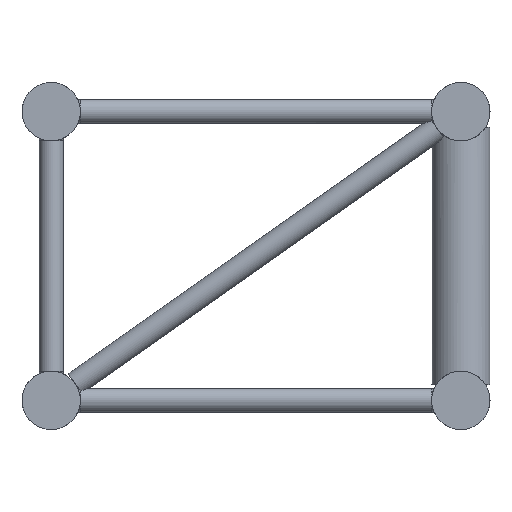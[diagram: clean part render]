
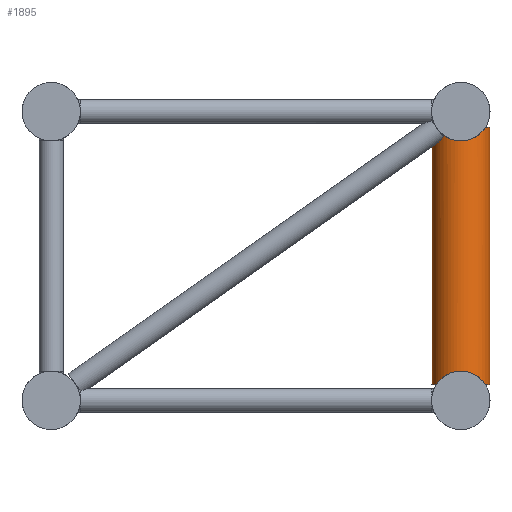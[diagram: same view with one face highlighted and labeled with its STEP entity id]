
A CAD part, left-side view. The second image highlights one B-rep face of the part: STEP entity #1895.
In plain terms, the highlighted cylindrical face has radius 24.15 mm (diameter 48.3 mm), a full revolution.
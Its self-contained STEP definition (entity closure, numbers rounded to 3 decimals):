
#189=FACE_BOUND('',#480,.T.);
#335=FACE_OUTER_BOUND('',#479,.T.);
#479=EDGE_LOOP('',(#1449,#1450,#1451,#1452,#1453,#1454));
#480=EDGE_LOOP('',(#1455,#1456,#1457,#1458));
#634=CIRCLE('',#2006,24.15);
#673=CIRCLE('',#2115,24.15);
#674=CIRCLE('',#2117,24.15);
#675=CIRCLE('',#2119,24.15);
#720=ELLIPSE('',#1983,41.912,24.15);
#728=ELLIPSE('',#2012,34.153,24.15);
#729=ELLIPSE('',#2013,34.153,24.15);
#746=ELLIPSE('',#2121,34.153,24.15);
#747=ELLIPSE('',#2122,34.153,24.15);
#754=B_SPLINE_CURVE_WITH_KNOTS('',3,(#2891,#2892,#2893,#2894,#2895,#2896,
#2897,#2898,#2899,#2900,#2901,#2902,#2903,#2904,#2905,#2906,#2907,#2908,
#2909,#2910,#2911,#2912),.UNSPECIFIED.,.F.,.F.,(4,2,2,2,2,2,2,2,2,2,4),
(1.619,2.098,2.448,2.797,2.963,
3.129,3.294,3.46,3.868,4.276,
4.635),.UNSPECIFIED.);
#826=VERTEX_POINT('',#2868);
#827=VERTEX_POINT('',#2869);
#835=VERTEX_POINT('',#2889);
#845=VERTEX_POINT('',#2949);
#852=VERTEX_POINT('',#2967);
#853=VERTEX_POINT('',#2969);
#898=VERTEX_POINT('',#3537);
#899=VERTEX_POINT('',#3538);
#900=VERTEX_POINT('',#3542);
#901=VERTEX_POINT('',#3543);
#1002=EDGE_CURVE('',#826,#827,#720,.T.);
#1011=EDGE_CURVE('',#827,#835,#754,.T.);
#1029=EDGE_CURVE('',#845,#835,#634,.T.);
#1038=EDGE_CURVE('',#826,#852,#728,.T.);
#1040=EDGE_CURVE('',#853,#845,#729,.T.);
#1114=EDGE_CURVE('',#898,#899,#673,.T.);
#1116=EDGE_CURVE('',#900,#901,#674,.T.);
#1117=EDGE_CURVE('',#852,#853,#675,.T.);
#1118=EDGE_CURVE('',#901,#898,#746,.T.);
#1119=EDGE_CURVE('',#899,#900,#747,.T.);
#1449=ORIENTED_EDGE('',*,*,#1011,.T.);
#1450=ORIENTED_EDGE('',*,*,#1029,.F.);
#1451=ORIENTED_EDGE('',*,*,#1040,.F.);
#1452=ORIENTED_EDGE('',*,*,#1117,.F.);
#1453=ORIENTED_EDGE('',*,*,#1038,.F.);
#1454=ORIENTED_EDGE('',*,*,#1002,.T.);
#1455=ORIENTED_EDGE('',*,*,#1118,.F.);
#1456=ORIENTED_EDGE('',*,*,#1116,.F.);
#1457=ORIENTED_EDGE('',*,*,#1119,.F.);
#1458=ORIENTED_EDGE('',*,*,#1114,.F.);
#1684=CYLINDRICAL_SURFACE('',#2120,24.15);
#1895=ADVANCED_FACE('',(#335,#189),#1684,.T.);
#1983=AXIS2_PLACEMENT_3D('',#2870,#2286,#2287);
#2006=AXIS2_PLACEMENT_3D('',#2951,#2340,#2341);
#2012=AXIS2_PLACEMENT_3D('',#2968,#2356,#2357);
#2013=AXIS2_PLACEMENT_3D('',#2971,#2359,#2360);
#2115=AXIS2_PLACEMENT_3D('',#3540,#2572,#2573);
#2117=AXIS2_PLACEMENT_3D('',#3545,#2577,#2578);
#2119=AXIS2_PLACEMENT_3D('',#3547,#2581,#2582);
#2120=AXIS2_PLACEMENT_3D('',#3548,#2583,#2584);
#2121=AXIS2_PLACEMENT_3D('',#3549,#2585,#2586);
#2122=AXIS2_PLACEMENT_3D('',#3550,#2587,#2588);
#2286=DIRECTION('center_axis',(0.,-0.817,
0.576));
#2287=DIRECTION('ref_axis',(0.,-0.576,-0.817));
#2340=DIRECTION('center_axis',(0.,0.,1.));
#2341=DIRECTION('ref_axis',(-1.,0.,0.));
#2356=DIRECTION('center_axis',(-0.707,0.,0.707));
#2357=DIRECTION('ref_axis',(-0.707,0.,-0.707));
#2359=DIRECTION('center_axis',(0.707,0.,0.707));
#2360=DIRECTION('ref_axis',(-0.707,0.,0.707));
#2572=DIRECTION('center_axis',(0.,0.,-1.));
#2573=DIRECTION('ref_axis',(-1.,0.,0.));
#2577=DIRECTION('center_axis',(0.,0.,-1.));
#2578=DIRECTION('ref_axis',(-1.,0.,0.));
#2581=DIRECTION('center_axis',(0.,0.,1.));
#2582=DIRECTION('ref_axis',(-1.,0.,0.));
#2583=DIRECTION('center_axis',(0.,0.,1.));
#2584=DIRECTION('ref_axis',(-1.,0.,0.));
#2585=DIRECTION('center_axis',(0.707,0.,-0.707));
#2586=DIRECTION('ref_axis',(-0.707,0.,-0.707));
#2587=DIRECTION('center_axis',(-0.707,0.,-0.707));
#2588=DIRECTION('ref_axis',(-0.707,0.,0.707));
#2868=CARTESIAN_POINT('',(57.303,17.304,-16.847));
#2869=CARTESIAN_POINT('',(54.872,14.545,-20.759));
#2870=CARTESIAN_POINT('Origin',(74.15,0.,-41.39));
#2889=CARTESIAN_POINT('',(69.566,23.711,-13.15));
#2891=CARTESIAN_POINT('Ctrl Pts',(54.872,14.545,-20.759));
#2892=CARTESIAN_POINT('Ctrl Pts',(55.539,15.43,-21.871));
#2893=CARTESIAN_POINT('Ctrl Pts',(56.282,16.29,-22.894));
#2894=CARTESIAN_POINT('Ctrl Pts',(57.74,17.739,-24.451));
#2895=CARTESIAN_POINT('Ctrl Pts',(58.405,18.336,-25.041));
#2896=CARTESIAN_POINT('Ctrl Pts',(59.897,19.519,-26.03));
#2897=CARTESIAN_POINT('Ctrl Pts',(60.719,20.104,-26.438));
#2898=CARTESIAN_POINT('Ctrl Pts',(62.167,20.975,-26.746));
#2899=CARTESIAN_POINT('Ctrl Pts',(62.666,21.252,-26.794));
#2900=CARTESIAN_POINT('Ctrl Pts',(63.682,21.771,-26.743));
#2901=CARTESIAN_POINT('Ctrl Pts',(64.199,22.011,-26.644));
#2902=CARTESIAN_POINT('Ctrl Pts',(65.2,22.437,-26.293));
#2903=CARTESIAN_POINT('Ctrl Pts',(65.685,22.623,-26.039));
#2904=CARTESIAN_POINT('Ctrl Pts',(66.582,22.938,-25.41));
#2905=CARTESIAN_POINT('Ctrl Pts',(66.993,23.068,-25.034));
#2906=CARTESIAN_POINT('Ctrl Pts',(68.242,23.435,-23.633));
#2907=CARTESIAN_POINT('Ctrl Pts',(68.924,23.582,-22.355));
#2908=CARTESIAN_POINT('Ctrl Pts',(69.805,23.76,-19.606));
#2909=CARTESIAN_POINT('Ctrl Pts',(70.,23.791,-18.133));
#2910=CARTESIAN_POINT('Ctrl Pts',(70.,23.791,-15.575));
#2911=CARTESIAN_POINT('Ctrl Pts',(69.855,23.767,-14.351));
#2912=CARTESIAN_POINT('Ctrl Pts',(69.566,23.711,-13.15));
#2949=CARTESIAN_POINT('',(87.3,20.256,-13.15));
#2951=CARTESIAN_POINT('Origin',(74.15,0.,-13.15));
#2967=CARTESIAN_POINT('',(61.,-20.256,-13.15));
#2968=CARTESIAN_POINT('Origin',(74.15,0.,0.));
#2969=CARTESIAN_POINT('',(87.3,-20.256,-13.15));
#2971=CARTESIAN_POINT('Origin',(74.15,0.,0.));
#3537=CARTESIAN_POINT('',(87.3,-20.256,-225.85));
#3538=CARTESIAN_POINT('',(61.,-20.256,-225.85));
#3540=CARTESIAN_POINT('Origin',(74.15,0.,-225.85));
#3542=CARTESIAN_POINT('',(61.,20.256,-225.85));
#3543=CARTESIAN_POINT('',(87.3,20.256,-225.85));
#3545=CARTESIAN_POINT('Origin',(74.15,0.,-225.85));
#3547=CARTESIAN_POINT('Origin',(74.15,0.,-13.15));
#3548=CARTESIAN_POINT('Origin',(74.15,0.,-225.85));
#3549=CARTESIAN_POINT('Origin',(74.15,0.,-239.));
#3550=CARTESIAN_POINT('Origin',(74.15,0.,-239.));
